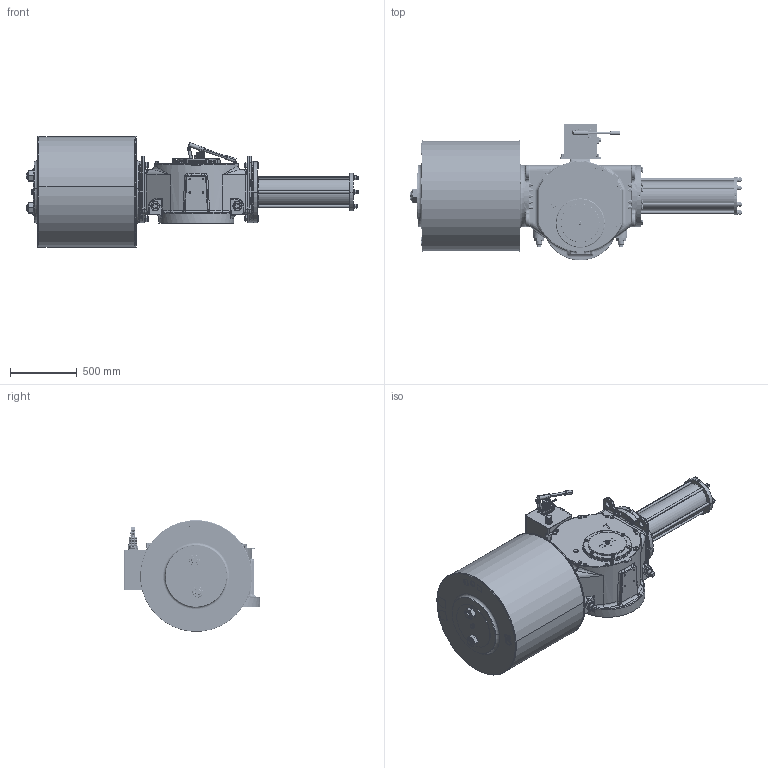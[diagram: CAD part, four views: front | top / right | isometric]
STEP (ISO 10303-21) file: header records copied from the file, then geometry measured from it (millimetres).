
FILE_DESCRIPTION (( 'STEP AP203' ), '1' );
FILE_NAME ('VTS7-800-MH.STEP', '2023-01-01T10:18:15', ( '' ), ( '' ), 'SwSTEP 2.0', 'SolidWorks 2020', '' );
FILE_SCHEMA (( 'CONFIG_CONTROL_DESIGN' ));
Length unit declared in the file: millimetre
Products named in the file (1): VTS7-800-MH
Bounding box: 2492 x 1027 x 836.87 mm (x, y, z)
Volume: 635652691.1 mm3; surface area: 8695177.1 mm2
Topology: 13 solids, 27 shells, 4165 faces, 10287 edges, 6342 vertices
Faces by surface type: plane 1510, cylinder 1400, cone 857, bspline 362, torus 36
Entity records: 152536 total; most frequent: CARTESIAN_POINT 56110, DIRECTION 20273, ORIENTED_EDGE 20242, EDGE_CURVE 10121, AXIS2_PLACEMENT_3D 8107, VERTEX_POINT 6342, EDGE_LOOP 4631, CIRCLE 4303
